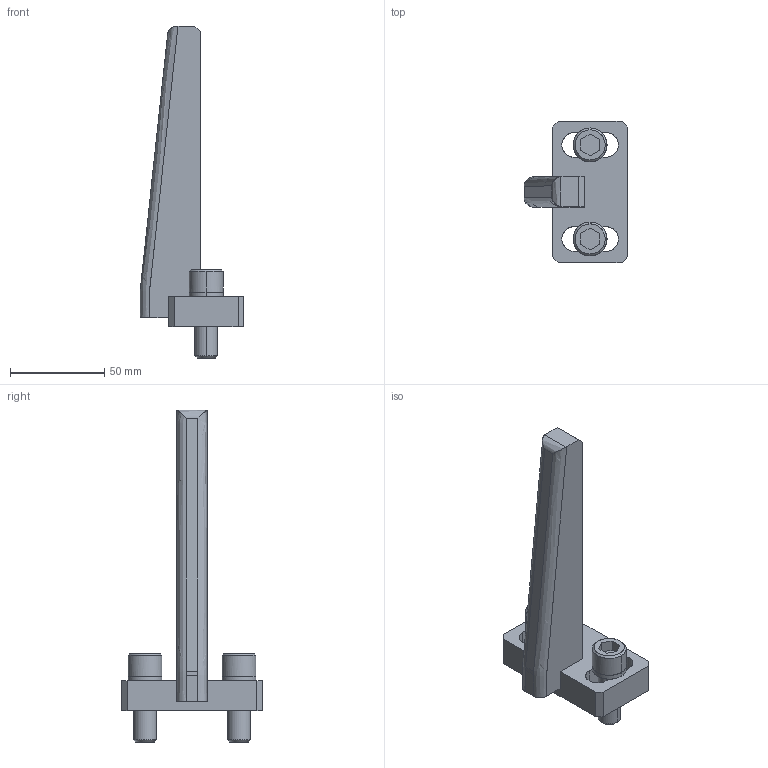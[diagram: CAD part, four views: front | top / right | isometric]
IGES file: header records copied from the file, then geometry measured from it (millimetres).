
Global section: file name: E:\UnigraphicsGraphicData\MISUMI_PRESS-PARTS\IGES\3d_nggc-160-20-15_01507_r00.igs; native system: NX V5.0; preprocessor: UGS NX IGES V5.0; author: MISUMI; date: 20110105.162039; units: millimetre
Bounding box: 55 x 75 x 176.5 mm (x, y, z)
Surface area: 30444.2 mm2 (no closed solid volume)
Topology: 0 solids, 0 shells, 103 faces, 662 edges, 662 vertices
Faces by surface type: bspline 103
